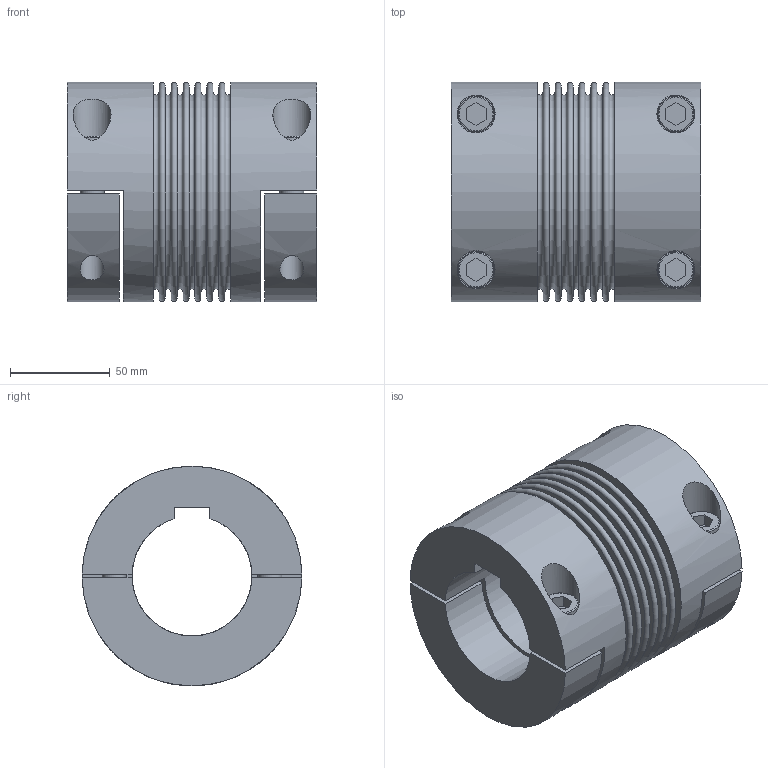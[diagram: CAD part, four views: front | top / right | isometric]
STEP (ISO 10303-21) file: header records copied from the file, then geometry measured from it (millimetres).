
FILE_DESCRIPTION(/* description */ ('STEP AP214'),/* implementation_level */ '2;1');
FILE_NAME(/* name */ 'C:\Diequa Files\DieQua Coupling\BCS\STP\BCS.300.125.#.#.stp',/* time_stamp */ '2018-11-15T09:43:38-06:00',/* author */ ('DiequaCAD'),/* organization */ (''),/* preprocessor_version */ 'ST-DEVELOPER v17.2',/* originating_system */ 'Autodesk Inventor 2019',/* authorisation */ ' ');
FILE_SCHEMA (('AUTOMOTIVE_DESIGN { 1 0 10303 214 3 1 1 }'));
Length unit declared in the file: millimetre
Products named in the file (1): BKH_300_125_60_PFN_60_PFN_29
Bounding box: 125 x 110 x 110 mm (x, y, z)
Volume: 600517.3 mm3; surface area: 141592.9 mm2
Topology: 1 solids, 1 shells, 120 faces, 276 edges, 192 vertices
Faces by surface type: plane 78, cylinder 25, torus 17
Full cylindrical faces by diameter (mm): 12 x8, 18 x4, 19 x4, 90 x1, 110 x2
Entity records: 3823 total; most frequent: CARTESIAN_POINT 889, DIRECTION 635, ORIENTED_EDGE 552, EDGE_CURVE 276, AXIS2_PLACEMENT_3D 246, VERTEX_POINT 192, EDGE_LOOP 160, LINE 143
